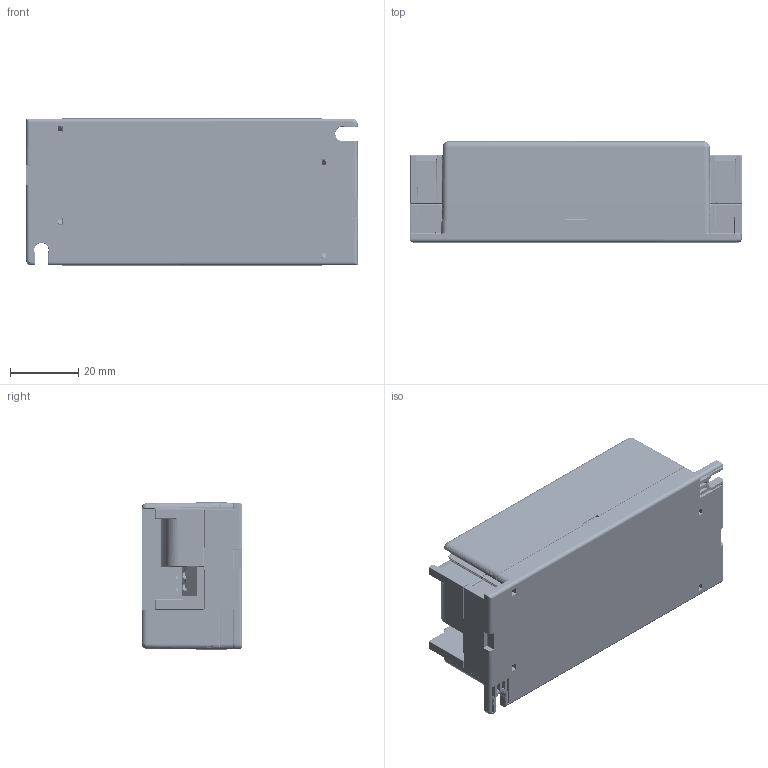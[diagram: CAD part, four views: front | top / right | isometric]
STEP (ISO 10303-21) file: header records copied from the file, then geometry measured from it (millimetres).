
FILE_DESCRIPTION (( 'STEP AP203' ), '1' );
FILE_NAME ('Assy_OT FIT NFC 15&25&40W.STEP', '2024-06-11T07:20:18', ( '' ), ( '' ), 'SwSTEP 2.0', 'SolidWorks 2023', '' );
FILE_SCHEMA (( 'CONFIG_CONTROL_DESIGN' ));
Length unit declared in the file: millimetre
Products named in the file (184): Submodel-041_DO214AC_SMA_SMD_part_simplified_041_DO214AC_SMA_H300_SMD_W; placementOutline_38; 041_DO219AA_SMD-041_DO219AA_H140_SMD; 034_R9_V_4_D30061092-034_R9_V_4_H1350_D30061092_W; Submodel-noModelForPart_032_000068120_L06_762381490; placementOutline_13; Submodel-023_130080180_L06_2880591356_part_023_130080180_L06_1000_W; Submodel-noModelForPart_032_E13_slash_10_V_6_temp_sz_NEW OT-FIT42W_2083318541; Submodel-024_1206_SMD_part_simplified_024_1206_H175_SMD_W; 024_1206_SMD-024_1206_H175_SMD; Submodel-021_000130220_L06_part_simplified_021_000130220_L06_0500_W; placementOutline_64; Submodel-073_WAGO250_02P_D30020003_part_simplified_073_WAGO250_02P_H1310_D30020003_W; placementOutline_22; placementOutline_42; Submodel-C__Vicky_Temp_PCB_Layout_3D_Input_S_022_132062121_L06-022_132062121_L06_1000_W.xtd; placementOutline_62; placementOutline_49; Submodel-044_SOT323_NPN_SMD_part_simplified_044_SOT323_H110_SMD_W; Submodel-noModelForPart_073_SOLDERING-PAD_SMD_0-029_1935687402; placementOutline_29; 024_0805_SMD-024_0805_H145_SMD_1; placementOutline_73; Jumper 8_Standard; placementOutline_47; 034_R9_V_4_D30051940-034_R9_V_4_H1350_D3005194_W; Heatsink_Standard; Submodel-C__Vicky_Temp_PCB_Layout_3D_Input_S_032_000110140_L08-032_000110140_l08_0500_W.xtd; 032_000110140_L08-032_000110140_l08_0500_W; Submodel-noModelForPart_Jumper_1206_H070_SMD_W_2.900; Submodel-023_100080150-D_L06_part_simplified_023_100080150-D_L06_1000_W; Submodel-noModelForPart_021_000100135_L06_576849935; Submodel-noModelForPart_023_105060120_L06_1605296592; placementOutline_66; Submodel-075_JUMPER_SMD_2768073486_part_011_0603_H055_GAP090_SMD_WS; placementOutline_72; placementOutline_24; Submodel-011_0805_SMD_part_simplified_011_0805_H065_SMD_W; Submodel-noModelForPart_075_JUMPER_SMD_2768073486; Submodel-C__Vicky_Temp_PCB_Layout_3D_Input_S_034_R9_V_4_D30051940-034_R9_V_4_H1350_D3005194_W.xtd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
Assembly tree (234 placements, depth 6):
  Assy_OT FIT NFC 15&25&40W
    1Q1-3400647-01
    1Q1-3400648-01
    Heatsink_Standard
    Insulation sheet_Standard  x2
    Main board A6_BoardAndModels
      DesignRootModel
        Submodel-011_0805_SMD_part_simplified_011_0805_H065_SMD_W  x6
          Submodel-C__Vicky_Temp_PCB_Layout_3D_Input_S_011_0805_SMD-011_0805_H065_SMD.xtd
            011_0805_SMD-011_0805_H065_SMD
        Submodel-011_0603_SMD_part_simplified_011_0603_H055_SMD_W  x6
          Submodel-C__Vicky_Temp_PCB_Layout_3D_Input_S_011_0603_SMD-011_0603_H055_SMD.xtd
            011_0603_SMD-011_0603_H055_SMD
        Submodel-024_0603_SMD_part_simplified_024_0603_H130_SMD_W  x5
          Submodel-C__Vicky_Temp_PCB_Layout_3D_Input_S_024_0603_SMD-024_0603_H130_SMD.xtd
            024_0603_SMD-024_0603_H130_SMD
        Submodel-041_DO214AC_SMA_SMD_part_simplified_041_DO214AC_SMA_H300_SMD_W  x7
          Submodel-C__Vicky_Temp_PCB_Layout_3D_Input_S_041_DO214AC_SMA_SMD-041_DO214AC_SMA_H300_SMD.xtd
            041_DO214AC_SMA_SMD-041_DO214AC_SMA_H300_SMD
        Submodel-024_0805_SMD_part_simplified_024_0805_H145_SMD_W  x2
          Submodel-C__Vicky_Temp_PCB_Layout_3D_Input_S_024_0805_SMD-024_0805_H145_SMD_1.xtd
            024_0805_SMD-024_0805_H145_SMD_1
        Submodel-042_SOD323_SMD_part_simplified_042_SOD323_H120_SMD_W
          Submodel-C__Vicky_Temp_PCB_Layout_3D_Input_S_042_SOD323_SMD-042_SOD323_H120_SMD.xtd
            042_SOD323_SMD-042_SOD323_H120_SMD
        Submodel-011_1206_SMD_part_simplified_011_1206_H070_SMD_W  x20
          Submodel-C__Vicky_Temp_PCB_Layout_3D_Input_S_011_1206_SMD-011_1206_H070_SMD.xtd
            011_1206_SMD-011_1206_H070_SMD
        Submodel-034_R9_V_4_D30061092_part_simplified_034_R9_V_4_H1350_D30061092_W
          Submodel-C__Vicky_Temp_PCB_Layout_3D_Input_S_034_R9_V_4_D30061092-034_R9_V_4_H1350_D30061092_W.xtd
            034_R9_V_4_D30061092-034_R9_V_4_H1350_D30061092_W
        Submodel-023_100080150-D_L06_part_simplified_023_100080150-D_L06_1000_W
          Submodel-C__Vicky_Temp_PCB_Layout_3D_Input_S_023_100080150-D_L06-023_100080150-D_L06_1000_W.xtd
            023_100080150-D_L06-023_100080150-D_L06_1000_W
        Submodel-021_000130220_L06_part_simplified_021_000130220_L06_0500_W
          Submodel-C__Vicky_Temp_PCB_Layout_3D_Input_S_021_000130220_L06-021_000130220_L06_0500_A_W.xtd
            021_000130220_L06-021_000130220_L06_0500_A_W
        Submodel-032_000110140_L08_part_simplified_032_000110140_L08_0500_W
          Submodel-C__Vicky_Temp_PCB_Layout_3D_Input_S_032_000110140_L08-032_000110140_l08_0500_W.xtd
            032_000110140_L08-032_000110140_l08_0500_W
        Submodel-024_1206_SMD_part_simplified_024_1206_H175_SMD_W  x5
          Submodel-C__Vicky_Temp_PCB_Layout_3D_Input_S_024_1206_SMD-024_1206_H175_SMD.xtd
            024_1206_SMD-024_1206_H175_SMD
        Submodel-041_SOD323_SMD_part_simplified_041_SOD323_H120_SMD_W  x3
          Submodel-C__Vicky_Temp_PCB_Layout_3D_Input_S_041_SOD323_SMD-041_SOD323_H120_SMD.xtd
            041_SOD323_SMD-041_SOD323_H120_SMD
        Submodel-073_WAGO250_02P_D30020003_part_simplified_073_WAGO250_02P_H1310_D30020003_W
          Submodel-C__Vicky_Temp_PCB_Layout_3D_Input_S_073_WAGO250_02P_D30020003-073_WAGO250_02P_H1310_D30020003_W.xtd
            073_WAGO250_02P_D30020003-073_WAGO250_02P_H1310_D30020003_W
        Submodel-034_TS10_H_4_D30011756_part_simplified_034_TS10_H_4_H1750_D30011756_W
          Submodel-C__Vicky_Temp_PCB_Layout_3D_Input_S_034_TS10_H_4_D30011756-034_TS10_H_4_H1750_D30011756_W.xtd
            034_TS10_H_4_D30011756-034_TS10_H_4_H1750_D30011756_W
        Submodel-021_000055130_L05_part_simplified_021_000055130_L05_0200#S_025Z160_W  x2
          Submodel-C__Vicky_Temp_PCB_Layout_3D_Input_S_021_000055130_L05_0200#S_025Z160_W.xtd
            021_000055130_L05_0200#S_025Z160_W
        Submodel-022_132062121_L06_part_simplified_022_132062121_L06_1000_W
          Submodel-C__Vicky_Temp_PCB_Layout_3D_Input_S_022_132062121_L06-022_132062121_L06_1000_W.xtd
            022_132062121_L06-022_132062121_L06_1000_W
        Submodel-044_SOT323_NPN_SMD_part_simplified_044_SOT323_H110_SMD_W
          Submodel-C__Vicky_Temp_PCB_Layout_3D_Input_S_044_SOT323_NPN_SMD-044_SOT323_H110_SMD.xtd
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Bounding box: 97.03 x 29.5 x 43 mm (x, y, z)
Volume: 68102.6 mm3; surface area: 82490.8 mm2
Topology: 280 solids, 280 shells, 8396 faces, 21983 edges, 14234 vertices
Faces by surface type: plane 4728, cylinder 2051, bspline 1551, cone 34, torus 16, sphere 16
Entity records: 249558 total; most frequent: CARTESIAN_POINT 68837, ORIENTED_EDGE 34596, DIRECTION 32073, EDGE_CURVE 17298, VERTEX_POINT 11172, VECTOR 10747, LINE 10747, AXIS2_PLACEMENT_3D 10663
